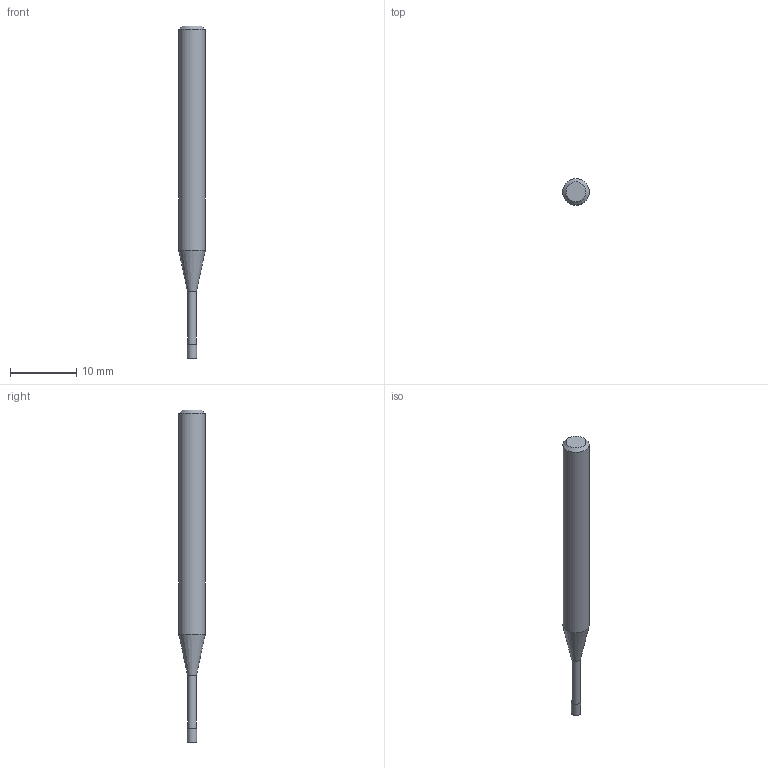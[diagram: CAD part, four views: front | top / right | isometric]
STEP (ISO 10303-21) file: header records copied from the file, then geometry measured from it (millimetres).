
FILE_DESCRIPTION((''),'2;1');
FILE_NAME('C:\Users\nsx150\AppData\Local\Temp\Mastercam 2021\17T8Q8S9EB\TEMP.step','2021-04-21T16:14:40',(''),(''),'STEP Write','Mastercam 2021 ... CNC Software, Inc.','');
FILE_SCHEMA(('AUTOMOTIVE_DESIGN'));
Length unit declared in the file: millimetre
Products named in the file (1): None
Bounding box: 4 x 4 x 50 mm (x, y, z)
Volume: 475.3 mm3; surface area: 533.7 mm2
Topology: 2 solids, 2 shells, 9 faces, 12 edges, 7 vertices
Faces by surface type: plane 4, cylinder 3, cone 2
Full cylindrical faces by diameter (mm): 1.35 x1, 1.4 x1, 4 x1
Entity records: 211 total; most frequent: DIRECTION 36, CARTESIAN_POINT 25, AXIS2_PLACEMENT_3D 18, ORIENTED_EDGE 14, EDGE_LOOP 14, STYLED_ITEM 12, ADVANCED_FACE 9, FACE_BOUND 8
